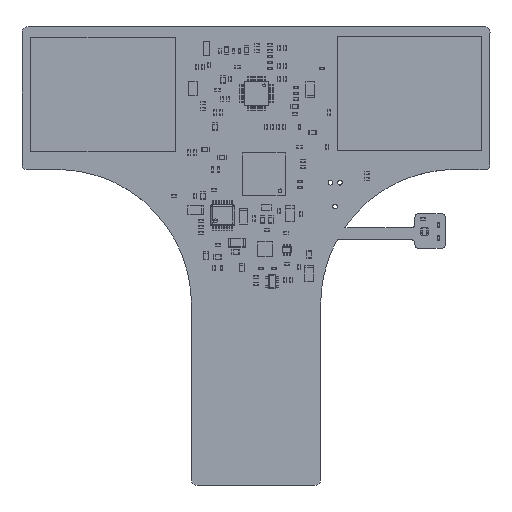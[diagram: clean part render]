
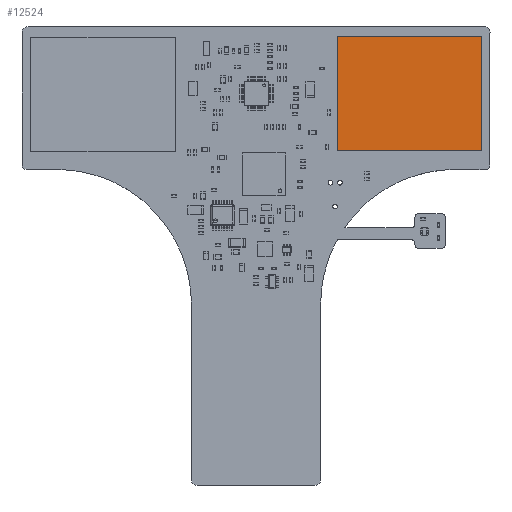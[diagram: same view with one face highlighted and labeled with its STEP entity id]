
A CAD part, top view. The second image highlights one B-rep face of the part: STEP entity #12524.
In plain terms, the highlighted planar face has unit normal (0, 0, 1).
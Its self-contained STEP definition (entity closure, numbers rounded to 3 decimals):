
#12210 = VERTEX_POINT('',#12211);
#12211 = CARTESIAN_POINT('',(-15.43,-12.191,1.));
#12218 = PLANE('',#12219);
#12219 = AXIS2_PLACEMENT_3D('',#12220,#12221,#12222);
#12220 = CARTESIAN_POINT('',(-15.43,-12.191,0.));
#12221 = DIRECTION('',(-1.,0.,0.));
#12222 = DIRECTION('',(0.,1.,0.));
#12230 = PLANE('',#12231);
#12231 = AXIS2_PLACEMENT_3D('',#12232,#12233,#12234);
#12232 = CARTESIAN_POINT('',(15.43,-12.191,0.));
#12233 = DIRECTION('',(0.,-1.,0.));
#12234 = DIRECTION('',(-1.,0.,0.));
#12242 = EDGE_CURVE('',#12210,#12243,#12245,.T.);
#12243 = VERTEX_POINT('',#12244);
#12244 = CARTESIAN_POINT('',(-15.43,12.191,1.));
#12245 = SURFACE_CURVE('',#12246,(#12250,#12257),.PCURVE_S1.);
#12246 = LINE('',#12247,#12248);
#12247 = CARTESIAN_POINT('',(-15.43,-12.191,1.));
#12248 = VECTOR('',#12249,1.);
#12249 = DIRECTION('',(0.,1.,0.));
#12250 = PCURVE('',#12218,#12251);
#12251 = DEFINITIONAL_REPRESENTATION('',(#12252),#12256);
#12252 = LINE('',#12253,#12254);
#12253 = CARTESIAN_POINT('',(0.,-1.));
#12254 = VECTOR('',#12255,1.);
#12255 = DIRECTION('',(1.,0.));
#12256 = ( GEOMETRIC_REPRESENTATION_CONTEXT(2) 
PARAMETRIC_REPRESENTATION_CONTEXT() REPRESENTATION_CONTEXT('2D SPACE',''
  ) );
#12257 = PCURVE('',#12258,#12263);
#12258 = PLANE('',#12259);
#12259 = AXIS2_PLACEMENT_3D('',#12260,#12261,#12262);
#12260 = CARTESIAN_POINT('',(-15.43,-12.191,1.));
#12261 = DIRECTION('',(0.,0.,1.));
#12262 = DIRECTION('',(1.,0.,0.));
#12263 = DEFINITIONAL_REPRESENTATION('',(#12264),#12268);
#12264 = LINE('',#12265,#12266);
#12265 = CARTESIAN_POINT('',(0.,0.));
#12266 = VECTOR('',#12267,1.);
#12267 = DIRECTION('',(0.,1.));
#12268 = ( GEOMETRIC_REPRESENTATION_CONTEXT(2) 
PARAMETRIC_REPRESENTATION_CONTEXT() REPRESENTATION_CONTEXT('2D SPACE',''
  ) );
#12286 = PLANE('',#12287);
#12287 = AXIS2_PLACEMENT_3D('',#12288,#12289,#12290);
#12288 = CARTESIAN_POINT('',(-15.43,12.191,0.));
#12289 = DIRECTION('',(0.,1.,0.));
#12290 = DIRECTION('',(1.,0.,0.));
#12328 = EDGE_CURVE('',#12243,#12329,#12331,.T.);
#12329 = VERTEX_POINT('',#12330);
#12330 = CARTESIAN_POINT('',(15.43,12.191,1.));
#12331 = SURFACE_CURVE('',#12332,(#12336,#12343),.PCURVE_S1.);
#12332 = LINE('',#12333,#12334);
#12333 = CARTESIAN_POINT('',(-15.43,12.191,1.));
#12334 = VECTOR('',#12335,1.);
#12335 = DIRECTION('',(1.,0.,0.));
#12336 = PCURVE('',#12286,#12337);
#12337 = DEFINITIONAL_REPRESENTATION('',(#12338),#12342);
#12338 = LINE('',#12339,#12340);
#12339 = CARTESIAN_POINT('',(0.,-1.));
#12340 = VECTOR('',#12341,1.);
#12341 = DIRECTION('',(1.,0.));
#12342 = ( GEOMETRIC_REPRESENTATION_CONTEXT(2) 
PARAMETRIC_REPRESENTATION_CONTEXT() REPRESENTATION_CONTEXT('2D SPACE',''
  ) );
#12343 = PCURVE('',#12258,#12344);
#12344 = DEFINITIONAL_REPRESENTATION('',(#12345),#12349);
#12345 = LINE('',#12346,#12347);
#12346 = CARTESIAN_POINT('',(0.,24.383));
#12347 = VECTOR('',#12348,1.);
#12348 = DIRECTION('',(1.,0.));
#12349 = ( GEOMETRIC_REPRESENTATION_CONTEXT(2) 
PARAMETRIC_REPRESENTATION_CONTEXT() REPRESENTATION_CONTEXT('2D SPACE',''
  ) );
#12367 = PLANE('',#12368);
#12368 = AXIS2_PLACEMENT_3D('',#12369,#12370,#12371);
#12369 = CARTESIAN_POINT('',(15.43,12.191,0.));
#12370 = DIRECTION('',(1.,0.,0.));
#12371 = DIRECTION('',(0.,-1.,0.));
#12404 = EDGE_CURVE('',#12329,#12405,#12407,.T.);
#12405 = VERTEX_POINT('',#12406);
#12406 = CARTESIAN_POINT('',(15.43,-12.191,1.));
#12407 = SURFACE_CURVE('',#12408,(#12412,#12419),.PCURVE_S1.);
#12408 = LINE('',#12409,#12410);
#12409 = CARTESIAN_POINT('',(15.43,12.191,1.));
#12410 = VECTOR('',#12411,1.);
#12411 = DIRECTION('',(0.,-1.,0.));
#12412 = PCURVE('',#12367,#12413);
#12413 = DEFINITIONAL_REPRESENTATION('',(#12414),#12418);
#12414 = LINE('',#12415,#12416);
#12415 = CARTESIAN_POINT('',(0.,-1.));
#12416 = VECTOR('',#12417,1.);
#12417 = DIRECTION('',(1.,0.));
#12418 = ( GEOMETRIC_REPRESENTATION_CONTEXT(2) 
PARAMETRIC_REPRESENTATION_CONTEXT() REPRESENTATION_CONTEXT('2D SPACE',''
  ) );
#12419 = PCURVE('',#12258,#12420);
#12420 = DEFINITIONAL_REPRESENTATION('',(#12421),#12425);
#12421 = LINE('',#12422,#12423);
#12422 = CARTESIAN_POINT('',(30.86,24.383));
#12423 = VECTOR('',#12424,1.);
#12424 = DIRECTION('',(0.,-1.));
#12425 = ( GEOMETRIC_REPRESENTATION_CONTEXT(2) 
PARAMETRIC_REPRESENTATION_CONTEXT() REPRESENTATION_CONTEXT('2D SPACE',''
  ) );
#12475 = EDGE_CURVE('',#12405,#12210,#12476,.T.);
#12476 = SURFACE_CURVE('',#12477,(#12481,#12488),.PCURVE_S1.);
#12477 = LINE('',#12478,#12479);
#12478 = CARTESIAN_POINT('',(15.43,-12.191,1.));
#12479 = VECTOR('',#12480,1.);
#12480 = DIRECTION('',(-1.,0.,0.));
#12481 = PCURVE('',#12230,#12482);
#12482 = DEFINITIONAL_REPRESENTATION('',(#12483),#12487);
#12483 = LINE('',#12484,#12485);
#12484 = CARTESIAN_POINT('',(0.,-1.));
#12485 = VECTOR('',#12486,1.);
#12486 = DIRECTION('',(1.,0.));
#12487 = ( GEOMETRIC_REPRESENTATION_CONTEXT(2) 
PARAMETRIC_REPRESENTATION_CONTEXT() REPRESENTATION_CONTEXT('2D SPACE',''
  ) );
#12488 = PCURVE('',#12258,#12489);
#12489 = DEFINITIONAL_REPRESENTATION('',(#12490),#12494);
#12490 = LINE('',#12491,#12492);
#12491 = CARTESIAN_POINT('',(30.86,0.));
#12492 = VECTOR('',#12493,1.);
#12493 = DIRECTION('',(-1.,0.));
#12494 = ( GEOMETRIC_REPRESENTATION_CONTEXT(2) 
PARAMETRIC_REPRESENTATION_CONTEXT() REPRESENTATION_CONTEXT('2D SPACE',''
  ) );
#12524 = ADVANCED_FACE('',(#12525),#12258,.T.);
#12525 = FACE_BOUND('',#12526,.F.);
#12526 = EDGE_LOOP('',(#12527,#12528,#12529,#12530));
#12527 = ORIENTED_EDGE('',*,*,#12242,.T.);
#12528 = ORIENTED_EDGE('',*,*,#12328,.T.);
#12529 = ORIENTED_EDGE('',*,*,#12404,.T.);
#12530 = ORIENTED_EDGE('',*,*,#12475,.T.);
